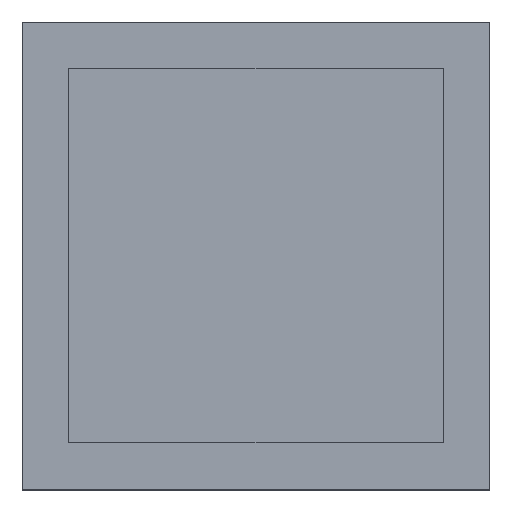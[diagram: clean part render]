
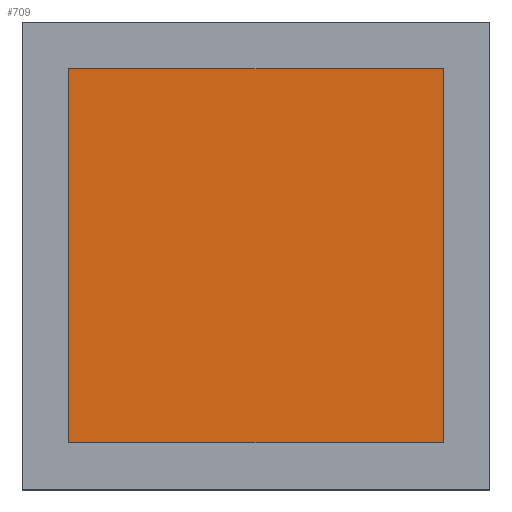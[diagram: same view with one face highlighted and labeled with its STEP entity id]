
A CAD part, top view. The second image highlights one B-rep face of the part: STEP entity #709.
In plain terms, the highlighted planar face has unit normal (0, 0, 1).
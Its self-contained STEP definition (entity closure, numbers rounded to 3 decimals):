
#395 = VERTEX_POINT('',#396);
#396 = CARTESIAN_POINT('',(-0.8,-0.8,0.12));
#403 = PLANE('',#404);
#404 = AXIS2_PLACEMENT_3D('',#405,#406,#407);
#405 = CARTESIAN_POINT('',(-0.8,-0.8,-0.12));
#406 = DIRECTION('',(1.,0.,-0.));
#407 = DIRECTION('',(0.,0.,1.));
#415 = PLANE('',#416);
#416 = AXIS2_PLACEMENT_3D('',#417,#418,#419);
#417 = CARTESIAN_POINT('',(-0.8,-0.8,-0.12));
#418 = DIRECTION('',(-0.,1.,0.));
#419 = DIRECTION('',(0.,0.,1.));
#456 = VERTEX_POINT('',#457);
#457 = CARTESIAN_POINT('',(-0.8,0.8,0.12));
#471 = PLANE('',#472);
#472 = AXIS2_PLACEMENT_3D('',#473,#474,#475);
#473 = CARTESIAN_POINT('',(-0.8,0.8,-0.12));
#474 = DIRECTION('',(-0.,1.,0.));
#475 = DIRECTION('',(0.,0.,1.));
#483 = EDGE_CURVE('',#395,#456,#484,.T.);
#484 = SURFACE_CURVE('',#485,(#489,#496),.PCURVE_S1.);
#485 = LINE('',#486,#487);
#486 = CARTESIAN_POINT('',(-0.8,-0.8,0.12));
#487 = VECTOR('',#488,1.);
#488 = DIRECTION('',(-0.,1.,0.));
#489 = PCURVE('',#403,#490);
#490 = DEFINITIONAL_REPRESENTATION('',(#491),#495);
#491 = LINE('',#492,#493);
#492 = CARTESIAN_POINT('',(0.24,0.));
#493 = VECTOR('',#494,1.);
#494 = DIRECTION('',(0.,-1.));
#495 = ( GEOMETRIC_REPRESENTATION_CONTEXT(2) 
PARAMETRIC_REPRESENTATION_CONTEXT() REPRESENTATION_CONTEXT('2D SPACE',''
  ) );
#496 = PCURVE('',#497,#502);
#497 = PLANE('',#498);
#498 = AXIS2_PLACEMENT_3D('',#499,#500,#501);
#499 = CARTESIAN_POINT('',(-0.8,-0.8,0.12));
#500 = DIRECTION('',(0.,0.,1.));
#501 = DIRECTION('',(1.,0.,-0.));
#502 = DEFINITIONAL_REPRESENTATION('',(#503),#507);
#503 = LINE('',#504,#505);
#504 = CARTESIAN_POINT('',(0.,0.));
#505 = VECTOR('',#506,1.);
#506 = DIRECTION('',(0.,1.));
#507 = ( GEOMETRIC_REPRESENTATION_CONTEXT(2) 
PARAMETRIC_REPRESENTATION_CONTEXT() REPRESENTATION_CONTEXT('2D SPACE',''
  ) );
#515 = VERTEX_POINT('',#516);
#516 = CARTESIAN_POINT('',(0.8,-0.8,0.12));
#523 = PLANE('',#524);
#524 = AXIS2_PLACEMENT_3D('',#525,#526,#527);
#525 = CARTESIAN_POINT('',(0.8,-0.8,-0.12));
#526 = DIRECTION('',(1.,0.,-0.));
#527 = DIRECTION('',(0.,0.,1.));
#566 = VERTEX_POINT('',#567);
#567 = CARTESIAN_POINT('',(0.8,0.8,0.12));
#588 = EDGE_CURVE('',#515,#566,#589,.T.);
#589 = SURFACE_CURVE('',#590,(#594,#601),.PCURVE_S1.);
#590 = LINE('',#591,#592);
#591 = CARTESIAN_POINT('',(0.8,-0.8,0.12));
#592 = VECTOR('',#593,1.);
#593 = DIRECTION('',(-0.,1.,0.));
#594 = PCURVE('',#523,#595);
#595 = DEFINITIONAL_REPRESENTATION('',(#596),#600);
#596 = LINE('',#597,#598);
#597 = CARTESIAN_POINT('',(0.24,0.));
#598 = VECTOR('',#599,1.);
#599 = DIRECTION('',(0.,-1.));
#600 = ( GEOMETRIC_REPRESENTATION_CONTEXT(2) 
PARAMETRIC_REPRESENTATION_CONTEXT() REPRESENTATION_CONTEXT('2D SPACE',''
  ) );
#601 = PCURVE('',#497,#602);
#602 = DEFINITIONAL_REPRESENTATION('',(#603),#607);
#603 = LINE('',#604,#605);
#604 = CARTESIAN_POINT('',(1.6,0.));
#605 = VECTOR('',#606,1.);
#606 = DIRECTION('',(0.,1.));
#607 = ( GEOMETRIC_REPRESENTATION_CONTEXT(2) 
PARAMETRIC_REPRESENTATION_CONTEXT() REPRESENTATION_CONTEXT('2D SPACE',''
  ) );
#634 = EDGE_CURVE('',#395,#515,#635,.T.);
#635 = SURFACE_CURVE('',#636,(#640,#647),.PCURVE_S1.);
#636 = LINE('',#637,#638);
#637 = CARTESIAN_POINT('',(-0.8,-0.8,0.12));
#638 = VECTOR('',#639,1.);
#639 = DIRECTION('',(1.,0.,-0.));
#640 = PCURVE('',#415,#641);
#641 = DEFINITIONAL_REPRESENTATION('',(#642),#646);
#642 = LINE('',#643,#644);
#643 = CARTESIAN_POINT('',(0.24,0.));
#644 = VECTOR('',#645,1.);
#645 = DIRECTION('',(0.,1.));
#646 = ( GEOMETRIC_REPRESENTATION_CONTEXT(2) 
PARAMETRIC_REPRESENTATION_CONTEXT() REPRESENTATION_CONTEXT('2D SPACE',''
  ) );
#647 = PCURVE('',#497,#648);
#648 = DEFINITIONAL_REPRESENTATION('',(#649),#653);
#649 = LINE('',#650,#651);
#650 = CARTESIAN_POINT('',(0.,0.));
#651 = VECTOR('',#652,1.);
#652 = DIRECTION('',(1.,0.));
#653 = ( GEOMETRIC_REPRESENTATION_CONTEXT(2) 
PARAMETRIC_REPRESENTATION_CONTEXT() REPRESENTATION_CONTEXT('2D SPACE',''
  ) );
#681 = EDGE_CURVE('',#456,#566,#682,.T.);
#682 = SURFACE_CURVE('',#683,(#687,#694),.PCURVE_S1.);
#683 = LINE('',#684,#685);
#684 = CARTESIAN_POINT('',(-0.8,0.8,0.12));
#685 = VECTOR('',#686,1.);
#686 = DIRECTION('',(1.,0.,-0.));
#687 = PCURVE('',#471,#688);
#688 = DEFINITIONAL_REPRESENTATION('',(#689),#693);
#689 = LINE('',#690,#691);
#690 = CARTESIAN_POINT('',(0.24,0.));
#691 = VECTOR('',#692,1.);
#692 = DIRECTION('',(0.,1.));
#693 = ( GEOMETRIC_REPRESENTATION_CONTEXT(2) 
PARAMETRIC_REPRESENTATION_CONTEXT() REPRESENTATION_CONTEXT('2D SPACE',''
  ) );
#694 = PCURVE('',#497,#695);
#695 = DEFINITIONAL_REPRESENTATION('',(#696),#700);
#696 = LINE('',#697,#698);
#697 = CARTESIAN_POINT('',(0.,1.6));
#698 = VECTOR('',#699,1.);
#699 = DIRECTION('',(1.,0.));
#700 = ( GEOMETRIC_REPRESENTATION_CONTEXT(2) 
PARAMETRIC_REPRESENTATION_CONTEXT() REPRESENTATION_CONTEXT('2D SPACE',''
  ) );
#709 = ADVANCED_FACE('',(#710),#497,.T.);
#710 = FACE_BOUND('',#711,.T.);
#711 = EDGE_LOOP('',(#712,#713,#714,#715));
#712 = ORIENTED_EDGE('',*,*,#483,.F.);
#713 = ORIENTED_EDGE('',*,*,#634,.T.);
#714 = ORIENTED_EDGE('',*,*,#588,.T.);
#715 = ORIENTED_EDGE('',*,*,#681,.F.);
